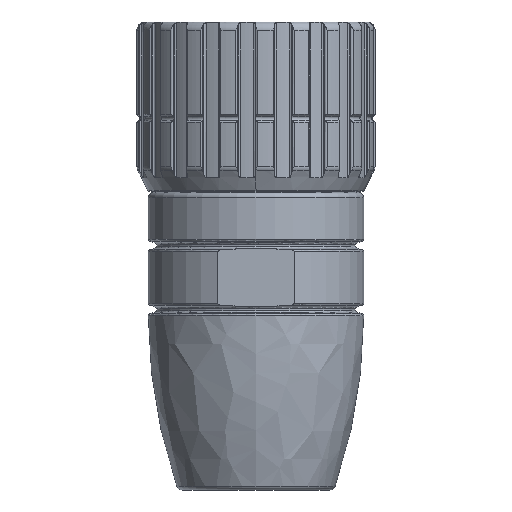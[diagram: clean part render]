
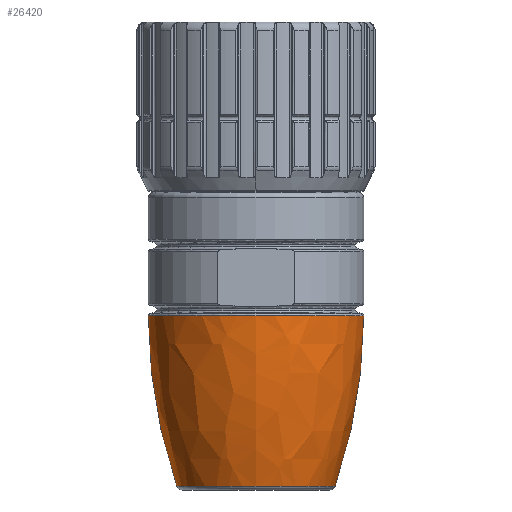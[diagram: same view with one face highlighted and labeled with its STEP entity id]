
A CAD part, left-side view. The second image highlights one B-rep face of the part: STEP entity #26420.
In plain terms, the highlighted free-form (B-spline) face has degree [3, 3] with [4, 4] control points.
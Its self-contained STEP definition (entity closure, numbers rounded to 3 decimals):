
#8540=CARTESIAN_POINT('',(0.,0.,-14.354));
#8541=DIRECTION('',(0.,0.,-1.));
#8542=DIRECTION('',(0.,-1.,0.));
#8543=AXIS2_PLACEMENT_3D('',#8540,#8541,#8542);
#8550=CARTESIAN_POINT('',(0.,46.41,-14.2));
#8551=DIRECTION('',(1.,0.,0.));
#8552=DIRECTION('',(0.,-1.,-0.003));
#8553=AXIS2_PLACEMENT_3D('',#8550,#8551,#8552);
#8555=CARTESIAN_POINT('',(0.,-46.41,-14.2));
#8556=DIRECTION('',(-1.,0.,0.));
#8557=DIRECTION('',(0.,1.,-0.003));
#8558=AXIS2_PLACEMENT_3D('',#8555,#8556,#8557);
#8580=CARTESIAN_POINT('',(0.,0.,-32.994));
#8581=DIRECTION('',(0.,0.,-1.));
#8582=DIRECTION('',(0.,-1.,0.));
#8583=AXIS2_PLACEMENT_3D('',#8580,#8581,#8582);
#15543=CARTESIAN_POINT('',(0.,8.64,
-32.994));
#15544=CARTESIAN_POINT('',(0.,-8.64,
-32.994));
#15545=VERTEX_POINT('',#15543);
#15546=VERTEX_POINT('',#15544);
#15591=CARTESIAN_POINT('',(0.,11.76,
-14.354));
#15592=CARTESIAN_POINT('',(0.,-11.76,
-14.354));
#15593=VERTEX_POINT('',#15591);
#15594=VERTEX_POINT('',#15592);
#26394=CARTESIAN_POINT('',(0.,8.64,-32.994));
#26395=CARTESIAN_POINT('',(0.,10.694,-26.979));
#26396=CARTESIAN_POINT('',(0.,11.743,-20.71));
#26397=CARTESIAN_POINT('',(0.,11.76,-14.354));
#26398=CARTESIAN_POINT('',(-17.281,8.64,
-32.994));
#26399=CARTESIAN_POINT('',(-21.388,10.694,
-26.979));
#26400=CARTESIAN_POINT('',(-23.486,11.743,
-20.71));
#26401=CARTESIAN_POINT('',(-23.52,11.76,
-14.354));
#26402=CARTESIAN_POINT('',(-17.281,-8.64,
-32.994));
#26403=CARTESIAN_POINT('',(-21.388,-10.694,
-26.979));
#26404=CARTESIAN_POINT('',(-23.486,-11.743,
-20.71));
#26405=CARTESIAN_POINT('',(-23.52,-11.76,
-14.354));
#26406=CARTESIAN_POINT('',(0.,-8.64,-32.994));
#26407=CARTESIAN_POINT('',(0.,-10.694,-26.979));
#26408=CARTESIAN_POINT('',(0.,-11.743,-20.71));
#26409=CARTESIAN_POINT('',(0.,-11.76,-14.354));
#26410=(BOUNDED_SURFACE()B_SPLINE_SURFACE(3,3,((#26394,#26395,#26396,#26397),(
#26398,#26399,#26400,#26401),(#26402,#26403,#26404,#26405),(#26406,#26407,
#26408,#26409)),.UNSPECIFIED.,.F.,.F.,.F.)B_SPLINE_SURFACE_WITH_KNOTS((4,4),(4,
4),(0.,1.),(0.,1.),.UNSPECIFIED.)GEOMETRIC_REPRESENTATION_ITEM()RATIONAL_B_SPLINE_SURFACE(((2.013,1.996,1.996,
2.013),(0.671,0.665,0.665,
0.671),(0.671,0.665,0.665,
0.671),(2.013,1.996,1.996,
2.013)))REPRESENTATION_ITEM('')SURFACE());
#26411=ORIENTED_EDGE('',*,*,#26387,.F.);
#26413=ORIENTED_EDGE('',*,*,#26412,.T.);
#26415=ORIENTED_EDGE('',*,*,#26414,.T.);
#26417=ORIENTED_EDGE('',*,*,#26416,.F.);
#26418=EDGE_LOOP('',(#26411,#26413,#26415,#26417));
#26419=FACE_OUTER_BOUND('',#26418,.F.);
#8544=CIRCLE('',#8543,11.76);
#8554=CIRCLE('',#8553,58.17);
#8559=CIRCLE('',#8558,58.17);
#8584=CIRCLE('',#8583,8.64);
#26387=EDGE_CURVE('',#15594,#15593,#8544,.T.);
#26412=EDGE_CURVE('',#15594,#15546,#8554,.T.);
#26414=EDGE_CURVE('',#15546,#15545,#8584,.T.);
#26416=EDGE_CURVE('',#15593,#15545,#8559,.T.);
#26420=ADVANCED_FACE('',(#26419),#26410,.T.);
